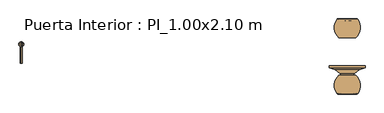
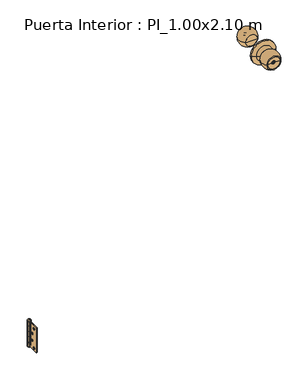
"""IFC4 building model written with IfcOpenShell, lengths in millimetres: door geometry, Puerta Interior : PI_1.00x2.10 m."""

from ifc_helpers import new_model, si_unit, point, frame, origin, place, context, project, spatial, polyline, circle_curve, ellipse_curve, trimmed, source, transform, mapped, element, save
from ifc_brep_helpers import plane_surface, cylinder_surface, revolved_surface, advanced_brep


def puerta_interior_pi_1_00x2_10_m_31410703(model_context):
    return source(origin(), model_context, "Body", "AdvancedBrep", [
        advanced_brep(
        [(-464.0, 7.5, 200.0349265), (-464.0, 7.5, 100.0349265), (-464.0, 51.5, 100.0349265), (-464.0, 51.5, 115.5349265), (-464.0, 51.0, 115.5349265), (-464.0, 51.0, 141.0349265), (-464.0, 51.5, 141.0349265), (-464.0, 51.5, 159.0349265), (-464.0, 51.0, 159.0349265), (-464.0, 51.0, 184.5349265), (-464.0, 51.5, 184.5349265), (-464.0, 51.5, 200.0349265), (-464.0, 17.5, 111.0349265), (-464.0, 25.5, 111.0349265), (-464.0, 28.5, 136.0349265), (-464.0, 36.5, 136.0349265), (-464.0, 17.5, 189.0349265), (-464.0, 25.5, 189.0349265), (-464.0, 28.5, 164.0349265), (-464.0, 36.5, 164.0349265), (-466.0, 7.5, 100.0349265), (-466.0, 7.5, 200.0349265), (-466.0, 53.027864, 200.0349265), (-466.0, 53.027864, 184.5349265), (-466.0, 51.0, 184.5349265), (-466.0, 51.0, 159.0349265), (-466.0, 53.027864, 159.0349265), (-466.0, 53.027864, 141.0349265), (-466.0, 51.0, 141.0349265), (-466.0, 51.0, 115.5349265), (-466.0, 53.027864, 115.5349265), (-466.0, 53.027864, 100.0349265), (-466.0, 25.5, 111.0349265), (-466.0, 17.5, 111.0349265), (-466.0, 36.5, 136.0349265), (-466.0, 28.5, 136.0349265), (-466.0, 25.5, 189.0349265), (-466.0, 17.5, 189.0349265), (-466.0, 36.5, 164.0349265), (-466.0, 28.5, 164.0349265), (-467.0, 53.027864, 100.0349265), (-467.0, 51.0192593, 100.0349265), (-467.0, 51.0192593, 200.0349265), (-467.0, 53.027864, 200.0349265), (-467.0, 53.027864, 184.5349265), (-467.0, 51.0192593, 184.5349265), (-467.0, 51.0192593, 159.0349265), (-467.0, 53.027864, 159.0349265), (-467.0, 53.027864, 141.0349265), (-467.0, 51.0192593, 141.0349265), (-467.0, 51.0192593, 115.5349265), (-467.0, 53.027864, 115.5349265)],
        [
            (0, 1),
            (1, 2),
            (2, 3),
            (3, 4),
            (4, 5),
            (5, 6),
            (6, 7),
            (7, 8),
            (8, 9),
            (9, 10),
            (10, 11),
            (11, 0),
            (12, 13, circle_curve(frame((-464.0, 21.5, 111.0349265), z_axis=(-1.0, 0.0, 0.0), x_axis=(0.0, -1.0, 0.0)), 4.0)),
            (13, 12, circle_curve(frame((-464.0, 21.5, 111.0349265), z_axis=(-1.0, 0.0, 0.0), x_axis=(0.0, -1.0, 0.0)), 4.0)),
            (14, 15, circle_curve(frame((-464.0, 32.5, 136.0349265), z_axis=(-1.0, 0.0, 0.0), x_axis=(0.0, -1.0, 0.0)), 4.0)),
            (15, 14, circle_curve(frame((-464.0, 32.5, 136.0349265), z_axis=(-1.0, 0.0, 0.0), x_axis=(0.0, -1.0, 0.0)), 4.0)),
            (16, 17, circle_curve(frame((-464.0, 21.5, 189.0349265), z_axis=(-1.0, 0.0, 0.0), x_axis=(0.0, -1.0, 0.0)), 4.0)),
            (17, 16, circle_curve(frame((-464.0, 21.5, 189.0349265), z_axis=(-1.0, 0.0, 0.0), x_axis=(0.0, -1.0, 0.0)), 4.0)),
            (18, 19, circle_curve(frame((-464.0, 32.5, 164.0349265), z_axis=(-1.0, 0.0, 0.0), x_axis=(0.0, -1.0, 0.0)), 4.0)),
            (19, 18, circle_curve(frame((-464.0, 32.5, 164.0349265), z_axis=(-1.0, 0.0, 0.0), x_axis=(0.0, -1.0, 0.0)), 4.0)),
            (20, 21),
            (21, 22),
            (22, 23),
            (23, 24),
            (24, 25),
            (25, 26),
            (26, 27),
            (27, 28),
            (28, 29),
            (29, 30),
            (30, 31),
            (31, 20),
            (32, 33, circle_curve(frame((-466.0, 21.5, 111.0349265), z_axis=(1.0, 0.0, 0.0), x_axis=(0.0, -1.0, 0.0)), 4.0)),
            (33, 32, circle_curve(frame((-466.0, 21.5, 111.0349265), z_axis=(1.0, 0.0, 0.0), x_axis=(0.0, -1.0, 0.0)), 4.0)),
            (34, 35, circle_curve(frame((-466.0, 32.5, 136.0349265), z_axis=(1.0, 0.0, 0.0), x_axis=(0.0, -1.0, 0.0)), 4.0)),
            (35, 34, circle_curve(frame((-466.0, 32.5, 136.0349265), z_axis=(1.0, 0.0, 0.0), x_axis=(0.0, -1.0, 0.0)), 4.0)),
            (36, 37, circle_curve(frame((-466.0, 21.5, 189.0349265), z_axis=(1.0, 0.0, 0.0), x_axis=(0.0, -1.0, 0.0)), 4.0)),
            (37, 36, circle_curve(frame((-466.0, 21.5, 189.0349265), z_axis=(1.0, 0.0, 0.0), x_axis=(0.0, -1.0, 0.0)), 4.0)),
            (38, 39, circle_curve(frame((-466.0, 32.5, 164.0349265), z_axis=(1.0, 0.0, 0.0), x_axis=(0.0, -1.0, 0.0)), 4.0)),
            (39, 38, circle_curve(frame((-466.0, 32.5, 164.0349265), z_axis=(1.0, 0.0, 0.0), x_axis=(0.0, -1.0, 0.0)), 4.0)),
            (1, 20),
            (31, 40, circle_curve(frame((-466.5, 57.5, 100.0349265), z_axis=(0.0, 0.0, 1.0), x_axis=(0.0, 1.0, 0.0)), 4.5)),
            (40, 41),
            (41, 2, circle_curve(frame((-466.5, 57.5, 100.0349265), z_axis=(0.0, 0.0, -1.0), x_axis=(0.0, 1.0, 0.0)), 6.5)),
            (0, 21),
            (11, 42, circle_curve(frame((-466.5, 57.5, 200.0349265), z_axis=(0.0, 0.0, 1.0), x_axis=(0.0, 1.0, 0.0)), 6.5)),
            (42, 43),
            (43, 22, circle_curve(frame((-466.5, 57.5, 200.0349265), z_axis=(0.0, 0.0, -1.0), x_axis=(0.0, 1.0, 0.0)), 4.5)),
            (24, 9),
            (8, 25),
            (28, 5),
            (4, 29),
            (23, 44, circle_curve(frame((-466.5, 57.5, 184.5349265), z_axis=(0.0, 0.0, 1.0), x_axis=(0.0, 1.0, 0.0)), 4.5)),
            (44, 45),
            (45, 10, circle_curve(frame((-466.5, 57.5, 184.5349265), z_axis=(0.0, 0.0, -1.0), x_axis=(0.0, 1.0, 0.0)), 6.5)),
            (45, 42),
            (44, 43),
            (7, 46, circle_curve(frame((-466.5, 57.5, 159.0349265), z_axis=(0.0, 0.0, 1.0), x_axis=(0.0, 1.0, 0.0)), 6.5)),
            (46, 47),
            (47, 26, circle_curve(frame((-466.5, 57.5, 159.0349265), z_axis=(0.0, 0.0, -1.0), x_axis=(0.0, 1.0, 0.0)), 4.5)),
            (27, 48, circle_curve(frame((-466.5, 57.5, 141.0349265), z_axis=(0.0, 0.0, 1.0), x_axis=(0.0, 1.0, 0.0)), 4.5)),
            (48, 49),
            (49, 6, circle_curve(frame((-466.5, 57.5, 141.0349265), z_axis=(0.0, 0.0, -1.0), x_axis=(0.0, 1.0, 0.0)), 6.5)),
            (49, 46),
            (48, 47),
            (3, 50, circle_curve(frame((-466.5, 57.5, 115.5349265), z_axis=(0.0, 0.0, 1.0), x_axis=(0.0, 1.0, 0.0)), 6.5)),
            (50, 51),
            (51, 30, circle_curve(frame((-466.5, 57.5, 115.5349265), z_axis=(0.0, 0.0, -1.0), x_axis=(0.0, 1.0, 0.0)), 4.5)),
            (41, 50),
            (40, 51),
            (32, 13),
            (12, 33),
            (34, 15),
            (14, 35),
            (36, 17),
            (16, 37),
            (38, 19),
            (18, 39),
        ],
        [
            plane_surface(frame((-464.0, 51.0, 100.0349265), z_axis=(1.0, 0.0, 0.0), x_axis=(0.0, 0.0, 1.0))),
            plane_surface(frame((-466.0, 51.0, 100.0349265), z_axis=(-1.0, 0.0, 0.0), x_axis=(0.0, 0.0, -1.0))),
            plane_surface(frame((-464.0, 7.5, 100.0349265), z_axis=(0.0, 0.0, -1.0), x_axis=(-1.0, 0.0, 0.0))),
            plane_surface(frame((-464.0, 7.5, 200.0349265), z_axis=(0.0, -1.0, 0.0), x_axis=(-1.0, 0.0, 0.0))),
            plane_surface(frame((-464.0, 51.0, 200.0349265), z_axis=(0.0, 0.0, 1.0), x_axis=(-1.0, 0.0, 0.0))),
            plane_surface(frame((-464.0, 51.0, 100.0349265), z_axis=(0.0, 1.0, 0.0), x_axis=(-1.0, 0.0, 0.0))),
            plane_surface(frame((-466.0, 51.0, 184.5349265), z_axis=(0.0, 0.0, -1.0), x_axis=(0.0, 1.0, 0.0))),
            cylinder_surface(frame((-466.5, 57.5, 184.5349265), z_axis=(0.0, 0.0, 1.0), x_axis=(0.0, 1.0, 0.0)), 6.5),
            plane_surface(frame((-467.0, 51.0192593, 200.0349265), z_axis=(1.0, 0.0, 0.0), x_axis=(0.0, 0.0, -1.0))),
            revolved_surface(polyline([(-466.5, 62.0, 184.5349265), (-466.5, 62.0, 200.0349265)]), (-466.5, 57.5, 184.5349265), (0.0, 0.0, -1.0)),
            plane_surface(frame((-466.0, 51.0, 159.0349265), z_axis=(0.0, 0.0, 1.0), x_axis=(0.0, -1.0, 0.0))),
            plane_surface(frame((-466.0, 51.0, 141.0349265), z_axis=(0.0, 0.0, -1.0), x_axis=(0.0, 1.0, 0.0))),
            cylinder_surface(frame((-466.5, 57.5, 141.0349265), z_axis=(0.0, 0.0, 1.0), x_axis=(0.0, 1.0, 0.0)), 6.5),
            plane_surface(frame((-467.0, 51.0192593, 159.0349265), z_axis=(1.0, 0.0, 0.0), x_axis=(0.0, 0.0, -1.0))),
            revolved_surface(polyline([(-466.5, 62.0, 141.0349265), (-466.5, 62.0, 159.0349265)]), (-466.5, 57.5, 141.0349265), (0.0, 0.0, -1.0)),
            plane_surface(frame((-466.0, 51.0, 115.5349265), z_axis=(0.0, 0.0, 1.0), x_axis=(0.0, -1.0, 0.0))),
            cylinder_surface(frame((-466.5, 57.5, 100.0349265), z_axis=(0.0, 0.0, 1.0), x_axis=(0.0, 1.0, 0.0)), 6.5),
            plane_surface(frame((-467.0, 51.0192593, 115.5349265), z_axis=(1.0, 0.0, 0.0), x_axis=(0.0, 0.0, -1.0))),
            revolved_surface(polyline([(-466.5, 62.0, 100.0349265), (-466.5, 62.0, 115.5349265)]), (-466.5, 57.5, 100.0349265), (0.0, 0.0, -1.0)),
            revolved_surface(polyline([(-464.0, 17.5, 111.0349265), (-466.0, 17.5, 111.0349265)]), (-469.0, 21.5, 111.0349265), (1.0, 0.0, 0.0)),
            revolved_surface(polyline([(-464.0, 28.5, 136.0349265), (-466.0, 28.5, 136.0349265)]), (-467.0, 32.5, 136.0349265), (1.0, 0.0, 0.0)),
            revolved_surface(polyline([(-464.0, 17.5, 189.0349265), (-466.0, 17.5, 189.0349265)]), (-467.0, 21.5, 189.0349265), (1.0, 0.0, 0.0)),
            revolved_surface(polyline([(-464.0, 28.5, 164.0349265), (-466.0, 28.5, 164.0349265)]), (-467.0, 32.5, 164.0349265), (1.0, 0.0, 0.0)),
        ],
        [
            (0, [[1, 2, 3, 4, 5, 6, 7, 8, 9, 10, 11, 12], [13, 14], [15, 16], [17, 18], [19, 20]]),
            (1, [[21, 22, 23, 24, 25, 26, 27, 28, 29, 30, 31, 32], [33, 34], [35, 36], [37, 38], [39, 40]]),
            (2, [[41, -32, 42, 43, 44, -2]]),
            (3, [[-1, 45, -21, -41]]),
            (4, [[-45, -12, 46, 47, 48, -22]]),
            (5, [[49, -9, 50, -25]]),
            (5, [[51, -5, 52, -29]]),
            (6, [[53, 54, 55, -10, -49, -24]]),
            (7, [[-46, -11, -55, 56]]),
            (8, [[-47, -56, -54, 57]]),
            (9, [[-48, -57, -53, -23]]),
            (10, [[58, 59, 60, -26, -50, -8]]),
            (11, [[61, 62, 63, -6, -51, -28]]),
            (12, [[-58, -7, -63, 64]]),
            (13, [[-59, -64, -62, 65]]),
            (14, [[-60, -65, -61, -27]]),
            (15, [[66, 67, 68, -30, -52, -4]]),
            (16, [[-66, -3, -44, 69]]),
            (17, [[-67, -69, -43, 70]]),
            (18, [[-68, -70, -42, -31]]),
            (19, [[71, -13, 72, -33]]),
            (19, [[-71, -34, -72, -14]]),
            (20, [[73, -15, 74, -35]]),
            (20, [[-73, -36, -74, -16]]),
            (21, [[75, -17, 76, -37]]),
            (21, [[-75, -38, -76, -18]]),
            (22, [[77, -19, 78, -39]]),
            (22, [[-77, -40, -78, -20]]),
        ],
    ),
        advanced_brep(
        [(-466.5, 53.0, 204.0349265), (-466.5, 61.9442719, 204.0349265), (-466.5, 61.9442719, 200.5349265), (-466.5, 53.0, 200.5349265), (-466.5, 57.472136, 204.0349265), (-466.5, 53.0, 96.0349265), (-466.5, 61.9442719, 96.0349265), (-466.5, 57.472136, 96.0349265), (-466.5, 53.0, 99.5349265), (-466.5, 61.9442719, 99.5349265)],
        [
            (0, 1, circle_curve(frame((-466.5, 57.472136, 204.0349265), z_axis=(0.0, 0.0, -1.0), x_axis=(0.0, 1.0, 0.0)), 4.472136)),
            (1, 2, circle_curve(frame((-466.5, 61.9442719, 202.2849265), z_axis=(-1.0, 0.0, 0.0), x_axis=(0.0, -1.0, 0.0)), 1.75)),
            (2, 3, circle_curve(frame((-466.5, 57.472136, 200.5349265), z_axis=(0.0, 0.0, 1.0), x_axis=(0.0, 1.0, 0.0)), 4.472136)),
            (3, 0, circle_curve(frame((-466.5, 53.0, 202.2849265), z_axis=(-1.0, 0.0, 0.0), x_axis=(0.0, 1.0, 0.0)), 1.75)),
            (1, 0, circle_curve(frame((-466.5, 57.472136, 204.0349265), z_axis=(0.0, 0.0, -1.0), x_axis=(0.0, 1.0, 0.0)), 4.472136)),
            (3, 2, circle_curve(frame((-466.5, 57.472136, 200.5349265), z_axis=(0.0, 0.0, 1.0), x_axis=(0.0, 1.0, 0.0)), 4.472136)),
            (4, 1),
            (0, 4),
            (5, 6, circle_curve(frame((-466.5, 57.472136, 96.0349265), z_axis=(0.0, 0.0, -1.0), x_axis=(0.0, 1.0, 0.0)), 4.472136)),
            (6, 7),
            (7, 5),
            (6, 5, circle_curve(frame((-466.5, 57.472136, 96.0349265), z_axis=(0.0, 0.0, -1.0), x_axis=(0.0, 1.0, 0.0)), 4.472136)),
            (8, 9, circle_curve(frame((-466.5, 57.472136, 99.5349265), z_axis=(0.0, 0.0, -1.0), x_axis=(0.0, 1.0, 0.0)), 4.472136)),
            (9, 6, circle_curve(frame((-466.5, 61.9442719, 97.7849265), z_axis=(-1.0, 0.0, 0.0), x_axis=(0.0, -1.0, 0.0)), 1.75)),
            (5, 8, circle_curve(frame((-466.5, 53.0, 97.7849265), z_axis=(-1.0, 0.0, 0.0), x_axis=(0.0, 1.0, 0.0)), 1.75)),
            (9, 8, circle_curve(frame((-466.5, 57.472136, 99.5349265), z_axis=(0.0, 0.0, -1.0), x_axis=(0.0, 1.0, 0.0)), 4.472136)),
            (2, 9),
            (8, 3),
        ],
        [
            revolved_surface(trimmed(ellipse_curve(frame((-466.5, 61.9442719, 202.2849265), z_axis=(1.0, 0.0, 0.0), x_axis=(0.0, -1.0, 0.0)), 1.75, 1.75), [point((-466.5, 61.9442719, 200.5349265))], [point((-466.5, 61.9442719, 204.0349265))], True, "CARTESIAN"), (-466.5, 57.472136, 204.0349265), (0.0, 0.0, 1.0)),
            plane_surface(frame((-466.5, 57.472136, 204.0349265), z_axis=(0.0, 0.0, 1.0), x_axis=(0.0, 1.0, 0.0))),
            plane_surface(frame((-466.5, 57.472136, 96.0349265), z_axis=(0.0, 0.0, -1.0), x_axis=(0.0, 1.0, 0.0))),
            revolved_surface(trimmed(ellipse_curve(frame((-466.5, 61.9442719, 97.7849265), z_axis=(1.0, 0.0, 0.0), x_axis=(0.0, -1.0, 0.0)), 1.75, 1.75), [point((-466.5, 61.9442719, 96.0349265))], [point((-466.5, 61.9442719, 99.5349265))], True, "CARTESIAN"), (-466.5, 57.472136, 204.0349265), (0.0, 0.0, 1.0)),
            cylinder_surface(frame((-466.5, 57.472136, 204.0349265), z_axis=(0.0, 0.0, 1.0), x_axis=(0.0, 1.0, 0.0)), 4.472136),
        ],
        [
            (0, [[1, 2, 3, 4]]),
            (0, [[5, -4, 6, -2]]),
            (1, [[7, -1, 8]]),
            (1, [[-8, -5, -7]]),
            (2, [[9, 10, 11]]),
            (2, [[12, -11, -10]]),
            (3, [[13, 14, -9, 15]]),
            (3, [[16, -15, -12, -14]]),
            (4, [[-3, 17, -13, 18]]),
            (4, [[-6, -18, -16, -17]]),
        ],
    ),
        advanced_brep(
        [(-467.0, 51.0, 200.0349265), (-467.0, 7.5, 200.0349265), (-467.0, 7.5, 100.0349265), (-467.0, 51.0, 100.0349265), (-467.0, 51.0, 116.5349265), (-467.0, 53.027864, 116.5349265), (-467.0, 53.027864, 140.0349265), (-467.0, 51.0, 140.0349265), (-467.0, 51.0, 160.0349265), (-467.0, 53.027864, 160.0349265), (-467.0, 53.027864, 183.5349265), (-467.0, 51.0, 183.5349265), (-467.0, 17.5, 111.0349265), (-467.0, 25.5, 111.0349265), (-467.0, 28.5, 136.0349265), (-467.0, 36.5, 136.0349265), (-467.0, 17.5, 189.0349265), (-467.0, 25.5, 189.0349265), (-467.0, 28.5, 164.0349265), (-467.0, 36.5, 164.0349265), (-469.0, 51.0, 100.0349265), (-469.0, 7.5, 100.0349265), (-469.0, 7.5, 200.0349265), (-469.0, 51.0, 200.0349265), (-469.0, 51.0, 183.5349265), (-469.0, 51.5, 183.5349265), (-469.0, 51.5, 160.0349265), (-469.0, 51.0, 160.0349265), (-469.0, 51.0, 140.0349265), (-469.0, 51.5, 140.0349265), (-469.0, 51.5, 116.5349265), (-469.0, 51.0, 116.5349265), (-469.0, 25.5, 111.0349265), (-469.0, 17.5, 111.0349265), (-469.0, 36.5, 136.0349265), (-469.0, 28.5, 136.0349265), (-469.0, 25.5, 189.0349265), (-469.0, 17.5, 189.0349265), (-469.0, 36.5, 164.0349265), (-469.0, 28.5, 164.0349265), (-466.0, 53.027864, 183.5349265), (-466.0, 51.0192593, 183.5349265), (-466.0, 51.0192593, 160.0349265), (-466.0, 53.027864, 160.0349265), (-466.0, 53.027864, 140.0349265), (-466.0, 51.0192593, 140.0349265), (-466.0, 51.0192593, 116.5349265), (-466.0, 53.027864, 116.5349265)],
        [
            (0, 1),
            (1, 2),
            (2, 3),
            (3, 4),
            (4, 5),
            (5, 6),
            (6, 7),
            (7, 8),
            (8, 9),
            (9, 10),
            (10, 11),
            (11, 0),
            (12, 13, circle_curve(frame((-467.0, 21.5, 111.0349265), z_axis=(-1.0, 0.0, 0.0), x_axis=(0.0, -1.0, 0.0)), 4.0)),
            (13, 12, circle_curve(frame((-467.0, 21.5, 111.0349265), z_axis=(-1.0, 0.0, 0.0), x_axis=(0.0, -1.0, 0.0)), 4.0)),
            (14, 15, circle_curve(frame((-467.0, 32.5, 136.0349265), z_axis=(-1.0, 0.0, 0.0), x_axis=(0.0, -1.0, 0.0)), 4.0)),
            (15, 14, circle_curve(frame((-467.0, 32.5, 136.0349265), z_axis=(-1.0, 0.0, 0.0), x_axis=(0.0, -1.0, 0.0)), 4.0)),
            (16, 17, circle_curve(frame((-467.0, 21.5, 189.0349265), z_axis=(-1.0, 0.0, 0.0), x_axis=(0.0, -1.0, 0.0)), 4.0)),
            (17, 16, circle_curve(frame((-467.0, 21.5, 189.0349265), z_axis=(-1.0, 0.0, 0.0), x_axis=(0.0, -1.0, 0.0)), 4.0)),
            (18, 19, circle_curve(frame((-467.0, 32.5, 164.0349265), z_axis=(-1.0, 0.0, 0.0), x_axis=(0.0, -1.0, 0.0)), 4.0)),
            (19, 18, circle_curve(frame((-467.0, 32.5, 164.0349265), z_axis=(-1.0, 0.0, 0.0), x_axis=(0.0, -1.0, 0.0)), 4.0)),
            (20, 21),
            (21, 22),
            (22, 23),
            (23, 24),
            (24, 25),
            (25, 26),
            (26, 27),
            (27, 28),
            (28, 29),
            (29, 30),
            (30, 31),
            (31, 20),
            (32, 33, circle_curve(frame((-469.0, 21.5, 111.0349265), z_axis=(1.0, 0.0, 0.0), x_axis=(0.0, -1.0, 0.0)), 4.0)),
            (33, 32, circle_curve(frame((-469.0, 21.5, 111.0349265), z_axis=(1.0, 0.0, 0.0), x_axis=(0.0, -1.0, 0.0)), 4.0)),
            (34, 35, circle_curve(frame((-469.0, 32.5, 136.0349265), z_axis=(1.0, 0.0, 0.0), x_axis=(0.0, -1.0, 0.0)), 4.0)),
            (35, 34, circle_curve(frame((-469.0, 32.5, 136.0349265), z_axis=(1.0, 0.0, 0.0), x_axis=(0.0, -1.0, 0.0)), 4.0)),
            (36, 37, circle_curve(frame((-469.0, 21.5, 189.0349265), z_axis=(1.0, 0.0, 0.0), x_axis=(0.0, -1.0, 0.0)), 4.0)),
            (37, 36, circle_curve(frame((-469.0, 21.5, 189.0349265), z_axis=(1.0, 0.0, 0.0), x_axis=(0.0, -1.0, 0.0)), 4.0)),
            (38, 39, circle_curve(frame((-469.0, 32.5, 164.0349265), z_axis=(1.0, 0.0, 0.0), x_axis=(0.0, -1.0, 0.0)), 4.0)),
            (39, 38, circle_curve(frame((-469.0, 32.5, 164.0349265), z_axis=(1.0, 0.0, 0.0), x_axis=(0.0, -1.0, 0.0)), 4.0)),
            (2, 21),
            (20, 3),
            (1, 22),
            (0, 23),
            (11, 24),
            (31, 4),
            (27, 8),
            (7, 28),
            (10, 40, circle_curve(frame((-466.5, 57.5, 183.5349265), z_axis=(0.0, 0.0, -1.0), x_axis=(0.0, 1.0, 0.0)), 4.5)),
            (40, 41),
            (41, 25, circle_curve(frame((-466.5, 57.5, 183.5349265), z_axis=(0.0, 0.0, 1.0), x_axis=(0.0, 1.0, 0.0)), 6.5)),
            (26, 42, circle_curve(frame((-466.5, 57.5, 160.0349265), z_axis=(0.0, 0.0, -1.0), x_axis=(0.0, 1.0, 0.0)), 6.5)),
            (42, 43),
            (43, 9, circle_curve(frame((-466.5, 57.5, 160.0349265), z_axis=(0.0, 0.0, 1.0), x_axis=(0.0, 1.0, 0.0)), 4.5)),
            (41, 42),
            (40, 43),
            (6, 44, circle_curve(frame((-466.5, 57.5, 140.0349265), z_axis=(0.0, 0.0, -1.0), x_axis=(0.0, 1.0, 0.0)), 4.5)),
            (44, 45),
            (45, 29, circle_curve(frame((-466.5, 57.5, 140.0349265), z_axis=(0.0, 0.0, 1.0), x_axis=(0.0, 1.0, 0.0)), 6.5)),
            (30, 46, circle_curve(frame((-466.5, 57.5, 116.5349265), z_axis=(0.0, 0.0, -1.0), x_axis=(0.0, 1.0, 0.0)), 6.5)),
            (46, 47),
            (47, 5, circle_curve(frame((-466.5, 57.5, 116.5349265), z_axis=(0.0, 0.0, 1.0), x_axis=(0.0, 1.0, 0.0)), 4.5)),
            (45, 46),
            (44, 47),
            (32, 13),
            (12, 33),
            (34, 15),
            (14, 35),
            (36, 17),
            (16, 37),
            (38, 19),
            (18, 39),
        ],
        [
            plane_surface(frame((-467.0, 51.0, 100.0349265), z_axis=(1.0, 0.0, 0.0), x_axis=(0.0, 0.0, 1.0))),
            plane_surface(frame((-469.0, 51.0, 100.0349265), z_axis=(-1.0, 0.0, 0.0), x_axis=(0.0, 0.0, -1.0))),
            plane_surface(frame((-467.0, 7.5, 100.0349265), z_axis=(0.0, 0.0, -1.0), x_axis=(-1.0, 0.0, 0.0))),
            plane_surface(frame((-467.0, 7.5, 200.0349265), z_axis=(0.0, -1.0, 0.0), x_axis=(-1.0, 0.0, 0.0))),
            plane_surface(frame((-467.0, 51.0, 200.0349265), z_axis=(0.0, 0.0, 1.0), x_axis=(-1.0, 0.0, 0.0))),
            plane_surface(frame((-467.0, 51.0, 100.0349265), z_axis=(0.0, 1.0, 0.0), x_axis=(-1.0, 0.0, 0.0))),
            plane_surface(frame((-466.5, 62.0, 183.5349265), z_axis=(0.0, 0.0, 1.0), x_axis=(1.0, 0.0, 0.0))),
            plane_surface(frame((-466.5, 62.0, 160.0349265), z_axis=(0.0, 0.0, -1.0), x_axis=(-1.0, 0.0, 0.0))),
            cylinder_surface(frame((-466.5, 57.5, 160.0349265), z_axis=(0.0, 0.0, 1.0), x_axis=(0.0, 1.0, 0.0)), 6.5),
            plane_surface(frame((-466.0, 53.027864, 183.5349265), z_axis=(-1.0, 0.0, 0.0), x_axis=(0.0, 0.0, -1.0))),
            revolved_surface(polyline([(-466.5, 62.0, 160.0349265), (-466.5, 62.0, 183.5349265)]), (-466.5, 57.5, 160.0349265), (0.0, 0.0, -1.0)),
            plane_surface(frame((-466.5, 62.0, 140.0349265), z_axis=(0.0, 0.0, 1.0), x_axis=(1.0, 0.0, 0.0))),
            plane_surface(frame((-466.5, 62.0, 116.5349265), z_axis=(0.0, 0.0, -1.0), x_axis=(-1.0, 0.0, 0.0))),
            cylinder_surface(frame((-466.5, 57.5, 116.5349265), z_axis=(0.0, 0.0, 1.0), x_axis=(0.0, 1.0, 0.0)), 6.5),
            plane_surface(frame((-466.0, 53.027864, 140.0349265), z_axis=(-1.0, 0.0, 0.0), x_axis=(0.0, 0.0, -1.0))),
            revolved_surface(polyline([(-466.5, 62.0, 116.5349265), (-466.5, 62.0, 140.0349265)]), (-466.5, 57.5, 116.5349265), (0.0, 0.0, -1.0)),
            revolved_surface(polyline([(-467.0, 17.5, 111.0349265), (-469.0, 17.5, 111.0349265)]), (-469.0, 21.5, 111.0349265), (1.0, 0.0, 0.0)),
            revolved_surface(polyline([(-467.0, 28.5, 136.0349265), (-469.0, 28.5, 136.0349265)]), (-467.0, 32.5, 136.0349265), (1.0, 0.0, 0.0)),
            revolved_surface(polyline([(-467.0, 17.5, 189.0349265), (-469.0, 17.5, 189.0349265)]), (-467.0, 21.5, 189.0349265), (1.0, 0.0, 0.0)),
            revolved_surface(polyline([(-467.0, 28.5, 164.0349265), (-469.0, 28.5, 164.0349265)]), (-467.0, 32.5, 164.0349265), (1.0, 0.0, 0.0)),
        ],
        [
            (0, [[1, 2, 3, 4, 5, 6, 7, 8, 9, 10, 11, 12], [13, 14], [15, 16], [17, 18], [19, 20]]),
            (1, [[21, 22, 23, 24, 25, 26, 27, 28, 29, 30, 31, 32], [33, 34], [35, 36], [37, 38], [39, 40]]),
            (2, [[-3, 41, -21, 42]]),
            (3, [[-2, 43, -22, -41]]),
            (4, [[-1, 44, -23, -43]]),
            (5, [[-44, -12, 45, -24]]),
            (5, [[-42, -32, 46, -4]]),
            (5, [[47, -8, 48, -28]]),
            (6, [[49, 50, 51, -25, -45, -11]]),
            (7, [[52, 53, 54, -9, -47, -27]]),
            (8, [[-51, 55, -52, -26]]),
            (9, [[-50, 56, -53, -55]]),
            (10, [[-49, -10, -54, -56]]),
            (11, [[57, 58, 59, -29, -48, -7]]),
            (12, [[60, 61, 62, -5, -46, -31]]),
            (13, [[-59, 63, -60, -30]]),
            (14, [[-58, 64, -61, -63]]),
            (15, [[-57, -6, -62, -64]]),
            (16, [[65, -13, 66, -33]]),
            (16, [[-65, -34, -66, -14]]),
            (17, [[67, -15, 68, -35]]),
            (17, [[-67, -36, -68, -16]]),
            (18, [[69, -17, 70, -37]]),
            (18, [[-69, -38, -70, -18]]),
            (19, [[71, -19, 72, -39]]),
            (19, [[-71, -40, -72, -20]]),
        ],
    ),
        advanced_brep(
        [(423.5312643, -74.946362, 1025.0174632), (377.0312357, -74.946362, 1025.0174632), (394.08125, -70.0573491, 1025.0174632), (406.48125, -70.0573491, 1025.0174632), (394.08125, -66.5726145, 1025.0174632), (406.48125, -66.5726145, 1025.0174632), (400.28125, -66.5726145, 1025.0174632), (377.840796, -25.0, 1025.0174632), (422.721704, -25.0, 1025.0174632), (401.28125, -25.0, 1025.0174632), (401.28125, -25.0, 1029.2407976), (400.28125, -25.0, 1029.2407976), (400.28125, -25.0, 1025.0174632), (399.28125, -25.0, 1025.0174632), (399.28125, -25.0, 1023.7959278), (400.28125, -25.0, 1023.7959278), (400.28125, -25.0, 1022.5683489), (399.28125, -25.0, 1022.5683489), (399.28125, -25.0, 1020.937297), (401.28125, -25.0, 1020.937297), (372.8579738, -73.6071088, 1025.0174632), (427.7045262, -73.6071088, 1025.0174632), (401.28125, -33.4273855, 1020.937297), (399.28125, -33.4273855, 1020.937297), (399.28125, -33.4273855, 1022.5683489), (400.28125, -33.4273855, 1022.5683489), (400.28125, -33.4273855, 1023.7959278), (399.28125, -33.4273855, 1023.7959278), (399.28125, -33.4273855, 1025.0174632), (400.28125, -33.4273855, 1025.0174632), (400.28125, -33.4273855, 1029.2407976), (401.28125, -33.4273855, 1029.2407976)],
        [
            (0, 1, circle_curve(frame((400.28125, -74.946362, 1025.0174632), z_axis=(0.0, -1.0, 0.0), x_axis=(-1.0, 0.0, 0.0)), 23.2500143)),
            (1, 2),
            (2, 3, circle_curve(frame((400.28125, -70.0573491, 1025.0174632), z_axis=(0.0, 1.0, 0.0), x_axis=(-1.0, 0.0, 0.0)), 6.2)),
            (3, 0),
            (1, 0, circle_curve(frame((400.28125, -74.946362, 1025.0174632), z_axis=(0.0, -1.0, 0.0), x_axis=(-1.0, 0.0, 0.0)), 23.2500143)),
            (3, 2, circle_curve(frame((400.28125, -70.0573491, 1025.0174632), z_axis=(0.0, 1.0, 0.0), x_axis=(-1.0, 0.0, 0.0)), 6.2)),
            (2, 4),
            (4, 5, circle_curve(frame((400.28125, -66.5726145, 1025.0174632), z_axis=(0.0, 1.0, 0.0), x_axis=(-1.0, 0.0, 0.0)), 6.2)),
            (5, 3),
            (5, 4, circle_curve(frame((400.28125, -66.5726145, 1025.0174632), z_axis=(0.0, 1.0, 0.0), x_axis=(-1.0, 0.0, 0.0)), 6.2)),
            (4, 6),
            (6, 5),
            (7, 8, circle_curve(frame((400.28125, -25.0, 1025.0174632), z_axis=(0.0, 1.0, 0.0), x_axis=(-1.0, 0.0, 0.0)), 22.440454)),
            (8, 9),
            (9, 10),
            (10, 11),
            (11, 12),
            (12, 13),
            (13, 7),
            (8, 7, circle_curve(frame((400.28125, -25.0, 1025.0174632), z_axis=(0.0, 1.0, 0.0), x_axis=(-1.0, 0.0, 0.0)), 22.440454)),
            (13, 14),
            (14, 15),
            (15, 16),
            (16, 17),
            (17, 18),
            (18, 19),
            (19, 9),
            (7, 20, circle_curve(frame((400.28125, -51.859375, 1025.0174632), z_axis=(0.0, 0.0, 1.0), x_axis=(1.0, 0.0, 0.0)), 35.0)),
            (20, 21, circle_curve(frame((400.28125, -73.6071088, 1025.0174632), z_axis=(0.0, 1.0, 0.0), x_axis=(-1.0, 0.0, 0.0)), 27.4232762)),
            (21, 8, circle_curve(frame((400.28125, -51.859375, 1025.0174632), z_axis=(0.0, 0.0, 1.0), x_axis=(-1.0, 0.0, 0.0)), 35.0)),
            (21, 20, circle_curve(frame((400.28125, -73.6071088, 1025.0174632), z_axis=(0.0, 1.0, 0.0), x_axis=(-1.0, 0.0, 0.0)), 27.4232762)),
            (0, 21, circle_curve(frame((424.6173206, -71.1588336, 1025.0174632), z_axis=(0.0, 0.0, 1.0), x_axis=(-1.0, 0.0, 0.0)), 3.9401636)),
            (20, 1, circle_curve(frame((375.9451794, -71.1588336, 1025.0174632), z_axis=(0.0, 0.0, 1.0), x_axis=(1.0, 0.0, 0.0)), 3.9401636)),
            (22, 23),
            (23, 24),
            (24, 25),
            (25, 26),
            (26, 27),
            (27, 28),
            (28, 29),
            (29, 30),
            (30, 31),
            (31, 22),
            (22, 19),
            (18, 23),
            (17, 24),
            (16, 25),
            (15, 26),
            (14, 27),
            (13, 28),
            (12, 29),
            (11, 30),
            (10, 31),
        ],
        [
            revolved_surface(polyline([(394.08125, -70.0573491, 1025.0174632), (377.0312357, -74.946362, 1025.0174632)]), (400.28125, -27.0, 1025.0174632), (0.0, 1.0, 0.0)),
            revolved_surface(polyline([(394.08125, -66.5726145, 1025.0174632), (394.08125, -70.0573491, 1025.0174632)]), (400.28125, -27.0, 1025.0174632), (0.0, 1.0, 0.0)),
            plane_surface(frame((400.28125, -66.5726145, 1025.0174632), z_axis=(0.0, -1.0, 0.0), x_axis=(-1.0, 0.0, 0.0))),
            plane_surface(frame((400.28125, -25.0, 1025.0174632), z_axis=(0.0, 1.0, 0.0), x_axis=(-1.0, 0.0, 0.0))),
            revolved_surface(trimmed(ellipse_curve(frame((400.28125, -51.859375, 1025.0174632), z_axis=(0.0, 0.0, -1.0), x_axis=(1.0, 0.0, 0.0)), 35.0, 35.0), [point((372.8579738, -73.6071088, 1025.0174632))], [point((377.840796, -25.0, 1025.0174632))], True, "CARTESIAN"), (400.28125, -27.0, 1025.0174632), (0.0, 1.0, 0.0)),
            revolved_surface(trimmed(ellipse_curve(frame((375.9451794, -71.1588336, 1025.0174632), z_axis=(0.0, 0.0, -1.0), x_axis=(1.0, 0.0, 0.0)), 3.9401636, 3.9401636), [point((377.0312357, -74.946362, 1025.0174632))], [point((372.8579738, -73.6071088, 1025.0174632))], True, "CARTESIAN"), (400.28125, -27.0, 1025.0174632), (0.0, 1.0, 0.0)),
            plane_surface(frame((399.28125, -33.4273855, 1020.937297), z_axis=(0.0, 1.0, 0.0), x_axis=(1.0, 0.0, 0.0))),
            plane_surface(frame((401.28125, -18.8970167, 1020.937297), z_axis=(0.0, 0.0, 1.0), x_axis=(0.0, -1.0, 0.0))),
            plane_surface(frame((399.28125, -18.8970167, 1020.937297), z_axis=(1.0, 0.0, 0.0), x_axis=(0.0, -1.0, 0.0))),
            plane_surface(frame((399.28125, -18.8970167, 1022.5683489), z_axis=(0.0, 0.0, -1.0), x_axis=(0.0, -1.0, 0.0))),
            plane_surface(frame((400.28125, -18.8970167, 1022.5683489), z_axis=(1.0, 0.0, 0.0), x_axis=(0.0, -1.0, 0.0))),
            plane_surface(frame((400.28125, -18.8970167, 1023.7959278), z_axis=(0.0, 0.0, 1.0), x_axis=(0.0, -1.0, 0.0))),
            plane_surface(frame((399.28125, -18.8970167, 1023.7959278), z_axis=(1.0, 0.0, 0.0), x_axis=(0.0, -1.0, 0.0))),
            plane_surface(frame((399.28125, -18.8970167, 1025.0174632), z_axis=(0.0, 0.0, -1.0), x_axis=(0.0, -1.0, 0.0))),
            plane_surface(frame((400.28125, -18.8970167, 1025.0174632), z_axis=(1.0, 0.0, 0.0), x_axis=(0.0, -1.0, 0.0))),
            plane_surface(frame((400.28125, -18.8970167, 1029.2407976), z_axis=(0.0, 0.0, -1.0), x_axis=(0.0, -1.0, 0.0))),
            plane_surface(frame((401.28125, -18.8970167, 1029.2407976), z_axis=(-1.0, 0.0, 0.0), x_axis=(0.0, -1.0, 0.0))),
        ],
        [
            (0, [[1, 2, 3, 4]]),
            (0, [[-2, 5, -4, 6]]),
            (1, [[-3, 7, 8, 9]]),
            (1, [[-6, -9, 10, -7]]),
            (2, [[-8, 11, 12]]),
            (2, [[-10, -12, -11]]),
            (3, [[13, 14, 15, 16, 17, 18, 19]]),
            (3, [[20, -19, 21, 22, 23, 24, 25, 26, 27, -14]]),
            (4, [[-13, 28, 29, 30]]),
            (4, [[-20, -30, 31, -28]]),
            (5, [[-1, 32, -29, 33]]),
            (5, [[-5, -33, -31, -32]]),
            (6, [[34, 35, 36, 37, 38, 39, 40, 41, 42, 43]]),
            (7, [[-34, 44, -26, 45]]),
            (8, [[-35, -45, -25, 46]]),
            (9, [[-36, -46, -24, 47]]),
            (10, [[-37, -47, -23, 48]]),
            (11, [[-38, -48, -22, 49]]),
            (12, [[-39, -49, -21, 50]]),
            (13, [[-40, -50, -18, 51]]),
            (14, [[-41, -51, -17, 52]]),
            (15, [[-42, -52, -16, 53]]),
            (16, [[-43, -53, -15, -27, -44]]),
        ],
    ),
        advanced_brep(
        [(382.78125, -5.0, 1025.0174632), (417.78125, -5.0, 1025.0174632), (382.78125, -25.0, 1025.0174632), (417.78125, -25.0, 1025.0174632), (401.28125, -25.0, 1020.937297), (399.28125, -25.0, 1020.937297), (399.28125, -25.0, 1022.5683489), (400.28125, -25.0, 1022.5683489), (400.28125, -25.0, 1023.7959278), (399.28125, -25.0, 1023.7959278), (399.28125, -25.0, 1025.0174632), (400.28125, -25.0, 1025.0174632), (400.28125, -25.0, 1029.2407976), (401.28125, -25.0, 1029.2407976), (401.28125, -18.8970167, 1020.937297), (401.28125, -18.8970167, 1029.2407976), (400.28125, -18.8970167, 1029.2407976), (400.28125, -18.8970167, 1025.0174632), (399.28125, -18.8970167, 1025.0174632), (399.28125, -18.8970167, 1023.7959278), (400.28125, -18.8970167, 1023.7959278), (400.28125, -18.8970167, 1022.5683489), (399.28125, -18.8970167, 1022.5683489), (399.28125, -18.8970167, 1020.937297)],
        [
            (0, 1, circle_curve(frame((400.28125, -5.0, 1025.0174632), z_axis=(0.0, 1.0, 0.0), x_axis=(1.0, 0.0, 0.0)), 17.5)),
            (1, 0, circle_curve(frame((400.28125, -5.0, 1025.0174632), z_axis=(0.0, 1.0, 0.0), x_axis=(1.0, 0.0, 0.0)), 17.5)),
            (2, 3, circle_curve(frame((400.28125, -25.0, 1025.0174632), z_axis=(0.0, -1.0, 0.0), x_axis=(1.0, 0.0, 0.0)), 17.5)),
            (3, 2, circle_curve(frame((400.28125, -25.0, 1025.0174632), z_axis=(0.0, -1.0, 0.0), x_axis=(1.0, 0.0, 0.0)), 17.5)),
            (4, 5),
            (5, 6),
            (6, 7),
            (7, 8),
            (8, 9),
            (9, 10),
            (10, 11),
            (11, 12),
            (12, 13),
            (13, 4),
            (0, 2),
            (3, 1),
            (14, 15),
            (15, 16),
            (16, 17),
            (17, 18),
            (18, 19),
            (19, 20),
            (20, 21),
            (21, 22),
            (22, 23),
            (23, 14),
            (23, 5),
            (4, 14),
            (22, 6),
            (21, 7),
            (20, 8),
            (19, 9),
            (18, 10),
            (17, 11),
            (16, 12),
            (15, 13),
        ],
        [
            plane_surface(frame((417.78125, -5.0, 1025.0174632), z_axis=(0.0, 1.0, 0.0), x_axis=(0.0, 0.0, -1.0))),
            plane_surface(frame((417.78125, -25.0, 1025.0174632), z_axis=(0.0, -1.0, 0.0), x_axis=(0.0, 0.0, 1.0))),
            cylinder_surface(frame((400.28125, -25.0, 1025.0174632), z_axis=(0.0, 1.0, 0.0), x_axis=(1.0, 0.0, 0.0)), 17.5),
            plane_surface(frame((399.28125, -18.8970167, 1020.937297), z_axis=(0.0, -1.0, 0.0), x_axis=(-1.0, 0.0, 0.0))),
            plane_surface(frame((401.28125, -18.8970167, 1020.937297), z_axis=(0.0, 0.0, 1.0), x_axis=(0.0, -1.0, 0.0))),
            plane_surface(frame((399.28125, -18.8970167, 1020.937297), z_axis=(1.0, 0.0, 0.0), x_axis=(0.0, -1.0, 0.0))),
            plane_surface(frame((399.28125, -18.8970167, 1022.5683489), z_axis=(0.0, 0.0, -1.0), x_axis=(0.0, -1.0, 0.0))),
            plane_surface(frame((400.28125, -18.8970167, 1022.5683489), z_axis=(1.0, 0.0, 0.0), x_axis=(0.0, -1.0, 0.0))),
            plane_surface(frame((400.28125, -18.8970167, 1023.7959278), z_axis=(0.0, 0.0, 1.0), x_axis=(0.0, -1.0, 0.0))),
            plane_surface(frame((399.28125, -18.8970167, 1023.7959278), z_axis=(1.0, 0.0, 0.0), x_axis=(0.0, -1.0, 0.0))),
            plane_surface(frame((399.28125, -18.8970167, 1025.0174632), z_axis=(0.0, 0.0, -1.0), x_axis=(0.0, -1.0, 0.0))),
            plane_surface(frame((400.28125, -18.8970167, 1025.0174632), z_axis=(1.0, 0.0, 0.0), x_axis=(0.0, -1.0, 0.0))),
            plane_surface(frame((400.28125, -18.8970167, 1029.2407976), z_axis=(0.0, 0.0, -1.0), x_axis=(0.0, -1.0, 0.0))),
            plane_surface(frame((401.28125, -18.8970167, 1029.2407976), z_axis=(-1.0, 0.0, 0.0), x_axis=(0.0, -1.0, 0.0))),
        ],
        [
            (0, [[1, 2]]),
            (1, [[3, 4], [5, 6, 7, 8, 9, 10, 11, 12, 13, 14]]),
            (2, [[-1, 15, -4, 16]]),
            (2, [[-2, -16, -3, -15]]),
            (3, [[17, 18, 19, 20, 21, 22, 23, 24, 25, 26]]),
            (4, [[-26, 27, -5, 28]]),
            (5, [[-25, 29, -6, -27]]),
            (6, [[-24, 30, -7, -29]]),
            (7, [[-23, 31, -8, -30]]),
            (8, [[-22, 32, -9, -31]]),
            (9, [[-21, 33, -10, -32]]),
            (10, [[-20, 34, -11, -33]]),
            (11, [[-19, 35, -12, -34]]),
            (12, [[-18, 36, -13, -35]]),
            (13, [[-17, -28, -14, -36]]),
        ],
    ),
        advanced_brep(
        [(406.203125, 120.0573491, 1025.0174632), (394.359375, 120.0573491, 1025.0174632), (394.359375, 116.5726145, 1025.0174632), (406.203125, 116.5726145, 1025.0174632), (405.203125, 120.0573491, 1025.0174632), (395.359375, 120.0573491, 1025.0174632), (401.28125, 120.0573491, 1025.0174632), (401.28125, 120.0573491, 1029.2407976), (400.28125, 120.0573491, 1029.2407976), (400.28125, 120.0573491, 1025.0174632), (399.28125, 120.0573491, 1025.0174632), (399.28125, 120.0573491, 1023.7959278), (400.28125, 120.0573491, 1023.7959278), (400.28125, 120.0573491, 1022.5683489), (399.28125, 120.0573491, 1022.5683489), (399.28125, 120.0573491, 1020.937297), (401.28125, 120.0573491, 1020.937297), (399.28125, 116.5726145, 1025.0174632), (400.28125, 116.5726145, 1025.0174632), (400.28125, 116.5726145, 1029.2407976), (401.28125, 116.5726145, 1029.2407976), (401.28125, 116.5726145, 1025.0174632), (401.28125, 116.5726145, 1020.937297), (399.28125, 116.5726145, 1020.937297), (399.28125, 116.5726145, 1022.5683489), (400.28125, 116.5726145, 1022.5683489), (400.28125, 116.5726145, 1023.7959278), (399.28125, 116.5726145, 1023.7959278)],
        [
            (0, 1, circle_curve(frame((400.28125, 120.0573491, 1025.0174632), z_axis=(0.0, -1.0, 0.0), x_axis=(-1.0, 0.0, 0.0)), 5.921875)),
            (1, 2),
            (2, 3, circle_curve(frame((400.28125, 116.5726145, 1025.0174632), z_axis=(0.0, 1.0, 0.0), x_axis=(-1.0, 0.0, 0.0)), 5.921875)),
            (3, 0),
            (1, 0, circle_curve(frame((400.28125, 120.0573491, 1025.0174632), z_axis=(0.0, -1.0, 0.0), x_axis=(-1.0, 0.0, 0.0)), 5.921875)),
            (3, 2, circle_curve(frame((400.28125, 116.5726145, 1025.0174632), z_axis=(0.0, 1.0, 0.0), x_axis=(-1.0, 0.0, 0.0)), 5.921875)),
            (0, 4, circle_curve(frame((405.703125, 120.0573491, 1025.0174632), z_axis=(0.0, 0.0, 1.0), x_axis=(-1.0, 0.0, 0.0)), 0.5)),
            (4, 5, circle_curve(frame((400.28125, 120.0573491, 1025.0174632), z_axis=(0.0, -1.0, 0.0), x_axis=(-1.0, 0.0, 0.0)), 4.921875)),
            (5, 1, circle_curve(frame((394.859375, 120.0573491, 1025.0174632), z_axis=(0.0, 0.0, 1.0), x_axis=(1.0, 0.0, 0.0)), 0.5)),
            (5, 4, circle_curve(frame((400.28125, 120.0573491, 1025.0174632), z_axis=(0.0, -1.0, 0.0), x_axis=(-1.0, 0.0, 0.0)), 4.921875)),
            (4, 6),
            (6, 7),
            (7, 8),
            (8, 9),
            (9, 10),
            (10, 5),
            (10, 11),
            (11, 12),
            (12, 13),
            (13, 14),
            (14, 15),
            (15, 16),
            (16, 6),
            (2, 17),
            (17, 18),
            (18, 19),
            (19, 20),
            (20, 21),
            (21, 3),
            (21, 22),
            (22, 23),
            (23, 24),
            (24, 25),
            (25, 26),
            (26, 27),
            (27, 17),
            (22, 16),
            (15, 23),
            (14, 24),
            (13, 25),
            (12, 26),
            (11, 27),
            (10, 17),
            (9, 18),
            (8, 19),
            (7, 20),
        ],
        [
            cylinder_surface(frame((400.28125, 116.5726145, 1025.0174632), z_axis=(0.0, 1.0, 0.0), x_axis=(-1.0, 0.0, 0.0)), 5.921875),
            revolved_surface(trimmed(ellipse_curve(frame((394.859375, 120.0573491, 1025.0174632), z_axis=(0.0, 0.0, -1.0), x_axis=(1.0, 0.0, 0.0)), 0.5, 0.5), [point((394.359375, 120.0573491, 1025.0174632))], [point((395.359375, 120.0573491, 1025.0174632))], True, "CARTESIAN"), (400.28125, 116.5726145, 1025.0174632), (0.0, 1.0, 0.0)),
            plane_surface(frame((400.28125, 120.0573491, 1025.0174632), z_axis=(0.0, 1.0, 0.0), x_axis=(-1.0, 0.0, 0.0))),
            plane_surface(frame((400.28125, 116.5726145, 1025.0174632), z_axis=(0.0, -1.0, 0.0), x_axis=(-1.0, 0.0, 0.0))),
            plane_surface(frame((401.28125, 131.1029833, 1020.937297), z_axis=(0.0, 0.0, 1.0), x_axis=(0.0, -1.0, 0.0))),
            plane_surface(frame((399.28125, 131.1029833, 1020.937297), z_axis=(1.0, 0.0, 0.0), x_axis=(0.0, -1.0, 0.0))),
            plane_surface(frame((399.28125, 131.1029833, 1022.5683489), z_axis=(0.0, 0.0, -1.0), x_axis=(0.0, -1.0, 0.0))),
            plane_surface(frame((400.28125, 131.1029833, 1022.5683489), z_axis=(1.0, 0.0, 0.0), x_axis=(0.0, -1.0, 0.0))),
            plane_surface(frame((400.28125, 131.1029833, 1023.7959278), z_axis=(0.0, 0.0, 1.0), x_axis=(0.0, -1.0, 0.0))),
            plane_surface(frame((399.28125, 131.1029833, 1023.7959278), z_axis=(1.0, 0.0, 0.0), x_axis=(0.0, -1.0, 0.0))),
            plane_surface(frame((399.28125, 131.1029833, 1025.0174632), z_axis=(0.0, 0.0, -1.0), x_axis=(0.0, -1.0, 0.0))),
            plane_surface(frame((400.28125, 131.1029833, 1025.0174632), z_axis=(1.0, 0.0, 0.0), x_axis=(0.0, -1.0, 0.0))),
            plane_surface(frame((400.28125, 131.1029833, 1029.2407976), z_axis=(0.0, 0.0, -1.0), x_axis=(0.0, -1.0, 0.0))),
            plane_surface(frame((401.28125, 131.1029833, 1029.2407976), z_axis=(-1.0, 0.0, 0.0), x_axis=(0.0, -1.0, 0.0))),
        ],
        [
            (0, [[1, 2, 3, 4]]),
            (0, [[-2, 5, -4, 6]]),
            (1, [[-1, 7, 8, 9]]),
            (1, [[-5, -9, 10, -7]]),
            (2, [[-8, 11, 12, 13, 14, 15, 16]]),
            (2, [[-10, -16, 17, 18, 19, 20, 21, 22, 23, -11]]),
            (3, [[-3, 24, 25, 26, 27, 28, 29]]),
            (3, [[-6, -29, 30, 31, 32, 33, 34, 35, 36, -24]]),
            (4, [[37, -22, 38, -31]]),
            (5, [[-38, -21, 39, -32]]),
            (6, [[-39, -20, 40, -33]]),
            (7, [[-40, -19, 41, -34]]),
            (8, [[-41, -18, 42, -35]]),
            (9, [[43, -36, -42, -17]]),
            (10, [[-43, -15, 44, -25]]),
            (11, [[-44, -14, 45, -26]]),
            (12, [[-45, -13, 46, -27]]),
            (13, [[-37, -30, -28, -46, -12, -23]]),
        ],
    ),
        advanced_brep(
        [(406.48125, 120.0573491, 1025.0174632), (394.08125, 120.0573491, 1025.0174632), (377.0312357, 124.946362, 1025.0174632), (423.5312643, 124.946362, 1025.0174632), (406.48125, 116.5726145, 1025.0174632), (394.08125, 116.5726145, 1025.0174632), (401.28125, 116.5726145, 1025.0174632), (400.28125, 116.5726145, 1025.0174632), (399.28125, 116.5726145, 1025.0174632), (422.721704, 75.0, 1025.0174632), (377.840796, 75.0, 1025.0174632), (400.28125, 75.0, 1025.0174632), (427.7045262, 123.6071088, 1025.0174632), (372.8579738, 123.6071088, 1025.0174632)],
        [
            (0, 1, circle_curve(frame((400.28125, 120.0573491, 1025.0174632), z_axis=(0.0, -1.0, 0.0), x_axis=(-1.0, 0.0, 0.0)), 6.2)),
            (1, 2),
            (2, 3, circle_curve(frame((400.28125, 124.946362, 1025.0174632), z_axis=(0.0, 1.0, 0.0), x_axis=(-1.0, 0.0, 0.0)), 23.2500143)),
            (3, 0),
            (1, 0, circle_curve(frame((400.28125, 120.0573491, 1025.0174632), z_axis=(0.0, -1.0, 0.0), x_axis=(-1.0, 0.0, 0.0)), 6.2)),
            (3, 2, circle_curve(frame((400.28125, 124.946362, 1025.0174632), z_axis=(0.0, 1.0, 0.0), x_axis=(-1.0, 0.0, 0.0)), 23.2500143)),
            (0, 4),
            (4, 5, circle_curve(frame((400.28125, 116.5726145, 1025.0174632), z_axis=(0.0, -1.0, 0.0), x_axis=(-1.0, 0.0, 0.0)), 6.2)),
            (5, 1),
            (5, 4, circle_curve(frame((400.28125, 116.5726145, 1025.0174632), z_axis=(0.0, -1.0, 0.0), x_axis=(-1.0, 0.0, 0.0)), 6.2)),
            (4, 6),
            (6, 7),
            (7, 8),
            (8, 5),
            (9, 10, circle_curve(frame((400.28125, 75.0, 1025.0174632), z_axis=(0.0, -1.0, 0.0), x_axis=(-1.0, 0.0, 0.0)), 22.440454)),
            (10, 11),
            (11, 9),
            (10, 9, circle_curve(frame((400.28125, 75.0, 1025.0174632), z_axis=(0.0, -1.0, 0.0), x_axis=(-1.0, 0.0, 0.0)), 22.440454)),
            (9, 12, circle_curve(frame((400.28125, 101.859375, 1025.0174632), z_axis=(0.0, 0.0, 1.0), x_axis=(-1.0, 0.0, 0.0)), 35.0)),
            (12, 13, circle_curve(frame((400.28125, 123.6071088, 1025.0174632), z_axis=(0.0, -1.0, 0.0), x_axis=(-1.0, 0.0, 0.0)), 27.4232762)),
            (13, 10, circle_curve(frame((400.28125, 101.859375, 1025.0174632), z_axis=(0.0, 0.0, 1.0), x_axis=(1.0, 0.0, 0.0)), 35.0)),
            (13, 12, circle_curve(frame((400.28125, 123.6071088, 1025.0174632), z_axis=(0.0, -1.0, 0.0), x_axis=(-1.0, 0.0, 0.0)), 27.4232762)),
            (2, 13, circle_curve(frame((375.9451794, 121.1588336, 1025.0174632), z_axis=(0.0, 0.0, 1.0), x_axis=(1.0, 0.0, 0.0)), 3.9401636)),
            (12, 3, circle_curve(frame((424.6173206, 121.1588336, 1025.0174632), z_axis=(0.0, 0.0, 1.0), x_axis=(-1.0, 0.0, 0.0)), 3.9401636)),
        ],
        [
            revolved_surface(polyline([(377.0312357, 124.946362, 1025.0174632), (394.08125, 120.0573491, 1025.0174632)]), (400.28125, 77.0, 1025.0174632), (0.0, 1.0, 0.0)),
            revolved_surface(polyline([(394.08125, 120.0573491, 1025.0174632), (394.08125, 116.5726145, 1025.0174632)]), (400.28125, 77.0, 1025.0174632), (0.0, 1.0, 0.0)),
            plane_surface(frame((400.28125, 116.5726145, 1025.0174632), z_axis=(0.0, 1.0, 0.0), x_axis=(-1.0, 0.0, 0.0))),
            plane_surface(frame((400.28125, 75.0, 1025.0174632), z_axis=(0.0, -1.0, 0.0), x_axis=(-1.0, 0.0, 0.0))),
            revolved_surface(trimmed(ellipse_curve(frame((400.28125, 101.859375, 1025.0174632), z_axis=(0.0, 0.0, -1.0), x_axis=(1.0, 0.0, 0.0)), 35.0, 35.0), [point((377.840796, 75.0, 1025.0174632))], [point((372.8579738, 123.6071088, 1025.0174632))], True, "CARTESIAN"), (400.28125, 77.0, 1025.0174632), (0.0, 1.0, 0.0)),
            revolved_surface(trimmed(ellipse_curve(frame((375.9451794, 121.1588336, 1025.0174632), z_axis=(0.0, 0.0, -1.0), x_axis=(1.0, 0.0, 0.0)), 3.9401636, 3.9401636), [point((372.8579738, 123.6071088, 1025.0174632))], [point((377.0312357, 124.946362, 1025.0174632))], True, "CARTESIAN"), (400.28125, 77.0, 1025.0174632), (0.0, 1.0, 0.0)),
        ],
        [
            (0, [[1, 2, 3, 4]]),
            (0, [[-2, 5, -4, 6]]),
            (1, [[-1, 7, 8, 9]]),
            (1, [[-5, -9, 10, -7]]),
            (2, [[-8, 11, 12, 13, 14]]),
            (2, [[-10, -14, -13, -12, -11]]),
            (3, [[15, 16, 17]]),
            (3, [[-16, 18, -17]]),
            (4, [[-15, 19, 20, 21]]),
            (4, [[-18, -21, 22, -19]]),
            (5, [[-3, 23, -20, 24]]),
            (5, [[-6, -24, -22, -23]]),
        ],
    ),
        advanced_brep(
        [(406.203125, -66.5726145, 1025.0174632), (394.359375, -66.5726145, 1025.0174632), (394.359375, -70.0573491, 1025.0174632), (406.203125, -70.0573491, 1025.0174632), (395.359375, -70.0573491, 1025.0174632), (405.203125, -70.0573491, 1025.0174632), (400.28125, -70.0573491, 1025.0174632), (400.28125, -66.5726145, 1025.0174632)],
        [
            (0, 1, circle_curve(frame((400.28125, -66.5726145, 1025.0174632), z_axis=(0.0, -1.0, 0.0), x_axis=(-1.0, 0.0, 0.0)), 5.921875)),
            (1, 2),
            (2, 3, circle_curve(frame((400.28125, -70.0573491, 1025.0174632), z_axis=(0.0, 1.0, 0.0), x_axis=(-1.0, 0.0, 0.0)), 5.921875)),
            (3, 0),
            (1, 0, circle_curve(frame((400.28125, -66.5726145, 1025.0174632), z_axis=(0.0, -1.0, 0.0), x_axis=(-1.0, 0.0, 0.0)), 5.921875)),
            (3, 2, circle_curve(frame((400.28125, -70.0573491, 1025.0174632), z_axis=(0.0, 1.0, 0.0), x_axis=(-1.0, 0.0, 0.0)), 5.921875)),
            (2, 4, circle_curve(frame((394.859375, -70.0573491, 1025.0174632), z_axis=(0.0, 0.0, 1.0), x_axis=(1.0, 0.0, 0.0)), 0.5)),
            (4, 5, circle_curve(frame((400.28125, -70.0573491, 1025.0174632), z_axis=(0.0, 1.0, 0.0), x_axis=(-1.0, 0.0, 0.0)), 4.921875)),
            (5, 3, circle_curve(frame((405.703125, -70.0573491, 1025.0174632), z_axis=(0.0, 0.0, 1.0), x_axis=(-1.0, 0.0, 0.0)), 0.5)),
            (5, 4, circle_curve(frame((400.28125, -70.0573491, 1025.0174632), z_axis=(0.0, 1.0, 0.0), x_axis=(-1.0, 0.0, 0.0)), 4.921875)),
            (4, 6),
            (6, 5),
            (7, 1),
            (0, 7),
        ],
        [
            cylinder_surface(frame((400.28125, -66.5726145, 1025.0174632), z_axis=(0.0, 1.0, 0.0), x_axis=(-1.0, 0.0, 0.0)), 5.921875),
            revolved_surface(trimmed(ellipse_curve(frame((394.859375, -70.0573491, 1025.0174632), z_axis=(0.0, 0.0, -1.0), x_axis=(1.0, 0.0, 0.0)), 0.5, 0.5), [point((395.359375, -70.0573491, 1025.0174632))], [point((394.359375, -70.0573491, 1025.0174632))], True, "CARTESIAN"), (400.28125, -66.5726145, 1025.0174632), (0.0, 1.0, 0.0)),
            plane_surface(frame((400.28125, -70.0573491, 1025.0174632), z_axis=(0.0, -1.0, 0.0), x_axis=(-1.0, 0.0, 0.0))),
            plane_surface(frame((400.28125, -66.5726145, 1025.0174632), z_axis=(0.0, 1.0, 0.0), x_axis=(-1.0, 0.0, 0.0))),
        ],
        [
            (0, [[1, 2, 3, 4]]),
            (0, [[5, -4, 6, -2]]),
            (1, [[-3, 7, 8, 9]]),
            (1, [[-6, -9, 10, -7]]),
            (2, [[-8, 11, 12]]),
            (2, [[-10, -12, -11]]),
            (3, [[13, -1, 14]]),
            (3, [[-14, -5, -13]]),
        ],
    ),
        advanced_brep(
        [(447.78125, 0.0, 1025.0174632), (352.78125, 0.0, 1025.0174632), (352.78125, -5.0, 1025.0174632), (447.78125, -5.0, 1025.0174632), (368.78125, -10.0, 1025.0174632), (431.78125, -10.0, 1025.0174632), (380.5796188, -20.0, 1025.0174632), (419.9828812, -20.0, 1025.0174632), (382.3883213, -20.0, 1025.0174632), (418.1741787, -20.0, 1025.0174632), (382.3883213, -5.0, 1025.0174632), (418.1741787, -5.0, 1025.0174632), (400.28125, -5.0, 1025.0174632), (400.28125, 0.0, 1025.0174632)],
        [
            (0, 1, circle_curve(frame((400.28125, 0.0, 1025.0174632), z_axis=(0.0, -1.0, 0.0), x_axis=(-1.0, 0.0, 0.0)), 47.5)),
            (1, 2),
            (2, 3, circle_curve(frame((400.28125, -5.0, 1025.0174632), z_axis=(0.0, 1.0, 0.0), x_axis=(-1.0, 0.0, 0.0)), 47.5)),
            (3, 0),
            (1, 0, circle_curve(frame((400.28125, 0.0, 1025.0174632), z_axis=(0.0, -1.0, 0.0), x_axis=(-1.0, 0.0, 0.0)), 47.5)),
            (3, 2, circle_curve(frame((400.28125, -5.0, 1025.0174632), z_axis=(0.0, 1.0, 0.0), x_axis=(-1.0, 0.0, 0.0)), 47.5)),
            (2, 4),
            (4, 5, circle_curve(frame((400.28125, -10.0, 1025.0174632), z_axis=(0.0, 1.0, 0.0), x_axis=(-1.0, 0.0, 0.0)), 31.5)),
            (5, 3),
            (5, 4, circle_curve(frame((400.28125, -10.0, 1025.0174632), z_axis=(0.0, 1.0, 0.0), x_axis=(-1.0, 0.0, 0.0)), 31.5)),
            (4, 6),
            (6, 7, circle_curve(frame((400.28125, -20.0, 1025.0174632), z_axis=(0.0, 1.0, 0.0), x_axis=(-1.0, 0.0, 0.0)), 19.7016312)),
            (7, 5),
            (7, 6, circle_curve(frame((400.28125, -20.0, 1025.0174632), z_axis=(0.0, 1.0, 0.0), x_axis=(-1.0, 0.0, 0.0)), 19.7016312)),
            (6, 8),
            (8, 9, circle_curve(frame((400.28125, -20.0, 1025.0174632), z_axis=(0.0, 1.0, 0.0), x_axis=(-1.0, 0.0, 0.0)), 17.8929287)),
            (9, 7),
            (9, 8, circle_curve(frame((400.28125, -20.0, 1025.0174632), z_axis=(0.0, 1.0, 0.0), x_axis=(-1.0, 0.0, 0.0)), 17.8929287)),
            (8, 10),
            (10, 11, circle_curve(frame((400.28125, -5.0, 1025.0174632), z_axis=(0.0, 1.0, 0.0), x_axis=(-1.0, 0.0, 0.0)), 17.8929287)),
            (11, 9),
            (11, 10, circle_curve(frame((400.28125, -5.0, 1025.0174632), z_axis=(0.0, 1.0, 0.0), x_axis=(-1.0, 0.0, 0.0)), 17.8929287)),
            (10, 12),
            (12, 11),
            (13, 1),
            (0, 13),
        ],
        [
            cylinder_surface(frame((400.28125, 0.0, 1025.0174632), z_axis=(0.0, 1.0, 0.0), x_axis=(-1.0, 0.0, 0.0)), 47.5),
            revolved_surface(polyline([(368.78125, -10.0, 1025.0174632), (352.78125, -5.0, 1025.0174632)]), (400.28125, 0.0, 1025.0174632), (0.0, 1.0, 0.0)),
            revolved_surface(polyline([(380.5796188, -20.0, 1025.0174632), (368.78125, -10.0, 1025.0174632)]), (400.28125, 0.0, 1025.0174632), (0.0, 1.0, 0.0)),
            plane_surface(frame((400.28125, -20.0, 1025.0174632), z_axis=(0.0, -1.0, 0.0), x_axis=(-1.0, 0.0, 0.0))),
            revolved_surface(polyline([(382.38832130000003, -5.0, 1025.0174632), (382.38832130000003, -20.0, 1025.0174632)]), (400.28125, 0.0, 1025.0174632), (0.0, 1.0, 0.0)),
            plane_surface(frame((400.28125, -5.0, 1025.0174632), z_axis=(0.0, -1.0, 0.0), x_axis=(-1.0, 0.0, 0.0))),
            plane_surface(frame((400.28125, 0.0, 1025.0174632), z_axis=(0.0, 1.0, 0.0), x_axis=(-1.0, 0.0, 0.0))),
        ],
        [
            (0, [[1, 2, 3, 4]]),
            (0, [[5, -4, 6, -2]]),
            (1, [[-3, 7, 8, 9]]),
            (1, [[-6, -9, 10, -7]]),
            (2, [[-8, 11, 12, 13]]),
            (2, [[-10, -13, 14, -11]]),
            (3, [[-12, 15, 16, 17]]),
            (3, [[-14, -17, 18, -15]]),
            (4, [[-16, 19, 20, 21]]),
            (4, [[-18, -21, 22, -19]]),
            (5, [[-20, 23, 24]]),
            (5, [[-22, -24, -23]]),
            (6, [[25, -1, 26]]),
            (6, [[-26, -5, -25]]),
        ],
    ),
    ])


if __name__ == "__main__":
    model = new_model("IFC4")
    model_context = context("Model", 3, world=origin())
    ifc_project = project(units=[si_unit("LENGTHUNIT", "METRE", prefix="MILLI")], contexts=[model_context])
    site = spatial("IfcSite", under=ifc_project)
    building = spatial("IfcBuilding", under=site)
    placement = place(None, origin())
    puerta_interior_pi_1_00x2_10_m_shape = puerta_interior_pi_1_00x2_10_m_31410703(model_context)
    element("IfcDoor", 1, ObjectType="Puerta Interior : PI_1.00x2.10 m", at=placement, inside=building, context=model_context, shape_type="MappedRepresentation", body=[
        mapped(puerta_interior_pi_1_00x2_10_m_shape, transform((0.0, 0.0, 0.0), x_axis=(1.0, 0.0, 0.0), y_axis=(0.0, 1.0, 0.0), z_axis=(0.0, 0.0, 1.0))),
    ])
    save(model, "model.ifc")
